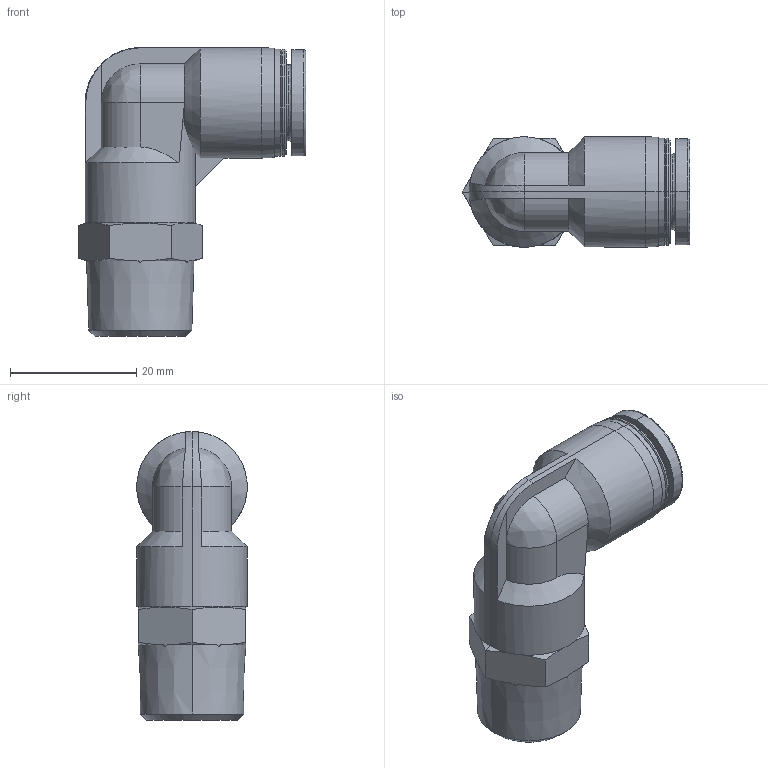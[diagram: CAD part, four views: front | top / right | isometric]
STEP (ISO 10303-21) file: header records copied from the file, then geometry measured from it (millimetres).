
FILE_DESCRIPTION (( 'STEP AP214' ), '1' );
FILE_NAME ('APL10-03.STEP', '2019-12-05T06:07:37', ( '微软用户' ), ( '微软中国' ), 'SwSTEP 2.0', 'SolidWorks 2016', '' );
FILE_SCHEMA (( 'AUTOMOTIVE_DESIGN' ));
Length unit declared in the file: millimetre
Products named in the file (1): APL10-03
Bounding box: 36.02 x 17.5 x 45.75 mm (x, y, z)
Volume: 11447.6 mm3; surface area: 4709.8 mm2
Topology: 1 solids, 1 shells, 79 faces, 192 edges, 118 vertices
Faces by surface type: cone 27, plane 24, cylinder 20, bspline 8
Entity records: 2939 total; most frequent: CARTESIAN_POINT 1148, ORIENTED_EDGE 380, DIRECTION 357, EDGE_CURVE 190, AXIS2_PLACEMENT_3D 149, VERTEX_POINT 118, EDGE_LOOP 84, FACE_OUTER_BOUND 79
